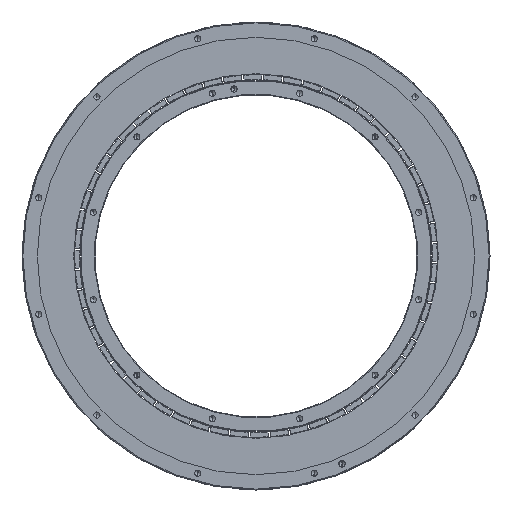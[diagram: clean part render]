
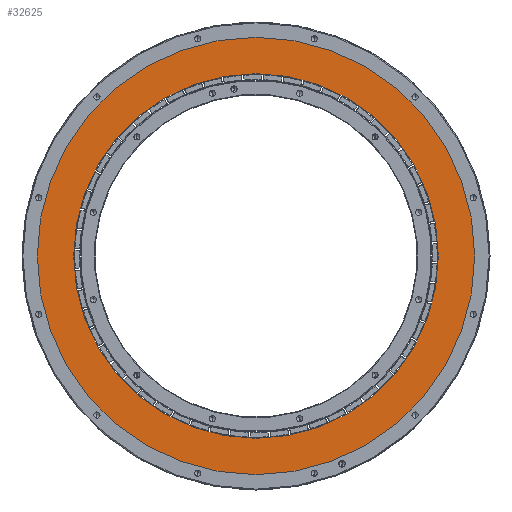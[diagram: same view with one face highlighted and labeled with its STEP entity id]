
A CAD part, front view. The second image highlights one B-rep face of the part: STEP entity #32625.
In plain terms, the highlighted planar face has unit normal (0, -1, 0).
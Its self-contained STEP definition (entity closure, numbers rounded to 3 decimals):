
#687 = CIRCLE ( 'NONE', #4034, 150. ) ;
#1325 = FACE_BOUND ( 'NONE', #15624, .T. ) ;
#2077 = EDGE_LOOP ( 'NONE', ( #3483, #26410 ) ) ;
#2598 = CARTESIAN_POINT ( 'NONE',  ( 0., -64., 0. ) ) ;
#2659 = ORIENTED_EDGE ( 'NONE', *, *, #11562, .F. ) ;
#3483 = ORIENTED_EDGE ( 'NONE', *, *, #23059, .T. ) ;
#3837 = VERTEX_POINT ( 'NONE', #6781 ) ;
#4034 = AXIS2_PLACEMENT_3D ( 'NONE', #23957, #18521, #19047 ) ;
#5079 = DIRECTION ( 'NONE',  ( 0., 0., -1. ) ) ;
#5382 = EDGE_CURVE ( 'NONE', #3837, #13581, #687, .T. ) ;
#6781 = CARTESIAN_POINT ( 'NONE',  ( 0., -64., 150. ) ) ;
#7895 = DIRECTION ( 'NONE',  ( 0., -1., 0. ) ) ;
#8619 = AXIS2_PLACEMENT_3D ( 'NONE', #16775, #13940, #24643 ) ;
#10655 = AXIS2_PLACEMENT_3D ( 'NONE', #2598, #31889, #19305 ) ;
#11055 = CARTESIAN_POINT ( 'NONE',  ( 0., -64., -150. ) ) ;
#11289 = CARTESIAN_POINT ( 'NONE',  ( 0., -64., -179.93 ) ) ;
#11562 = EDGE_CURVE ( 'NONE', #13581, #3837, #26892, .T. ) ;
#12665 = CARTESIAN_POINT ( 'NONE',  ( 0., -64., 179.93 ) ) ;
#12672 = DIRECTION ( 'NONE',  ( 0., 0., -1. ) ) ;
#13168 = VERTEX_POINT ( 'NONE', #12665 ) ;
#13581 = VERTEX_POINT ( 'NONE', #11055 ) ;
#13940 = DIRECTION ( 'NONE',  ( 0., -1., 0. ) ) ;
#14778 = CIRCLE ( 'NONE', #8619, 179.93 ) ;
#15449 = CARTESIAN_POINT ( 'NONE',  ( 0., -64., 0. ) ) ;
#15624 = EDGE_LOOP ( 'NONE', ( #2659, #23832 ) ) ;
#16775 = CARTESIAN_POINT ( 'NONE',  ( 0., -64., 0. ) ) ;
#16811 = EDGE_CURVE ( 'NONE', #13168, #33828, #14778, .T. ) ;
#18323 = CARTESIAN_POINT ( 'NONE',  ( 0., -64., 0. ) ) ;
#18324 = CIRCLE ( 'NONE', #30617, 179.93 ) ;
#18521 = DIRECTION ( 'NONE',  ( 0., -1., 0. ) ) ;
#19047 = DIRECTION ( 'NONE',  ( 0., 0., -1. ) ) ;
#19305 = DIRECTION ( 'NONE',  ( 0., 0., -1. ) ) ;
#23059 = EDGE_CURVE ( 'NONE', #33828, #13168, #18324, .T. ) ;
#23832 = ORIENTED_EDGE ( 'NONE', *, *, #5382, .F. ) ;
#23957 = CARTESIAN_POINT ( 'NONE',  ( 0., -64., 0. ) ) ;
#24537 = PLANE ( 'NONE',  #10655 ) ;
#24643 = DIRECTION ( 'NONE',  ( 0., 0., -1. ) ) ;
#26410 = ORIENTED_EDGE ( 'NONE', *, *, #16811, .T. ) ;
#26892 = CIRCLE ( 'NONE', #31941, 150. ) ;
#29143 = DIRECTION ( 'NONE',  ( 0., -1., 0. ) ) ;
#30617 = AXIS2_PLACEMENT_3D ( 'NONE', #18323, #29143, #12672 ) ;
#31889 = DIRECTION ( 'NONE',  ( 0., -1., 0. ) ) ;
#31941 = AXIS2_PLACEMENT_3D ( 'NONE', #15449, #7895, #5079 ) ;
#32415 = FACE_OUTER_BOUND ( 'NONE', #2077, .T. ) ;
#32625 = ADVANCED_FACE ( 'NONE', ( #1325, #32415 ), #24537, .T. ) ;
#33828 = VERTEX_POINT ( 'NONE', #11289 ) ;
